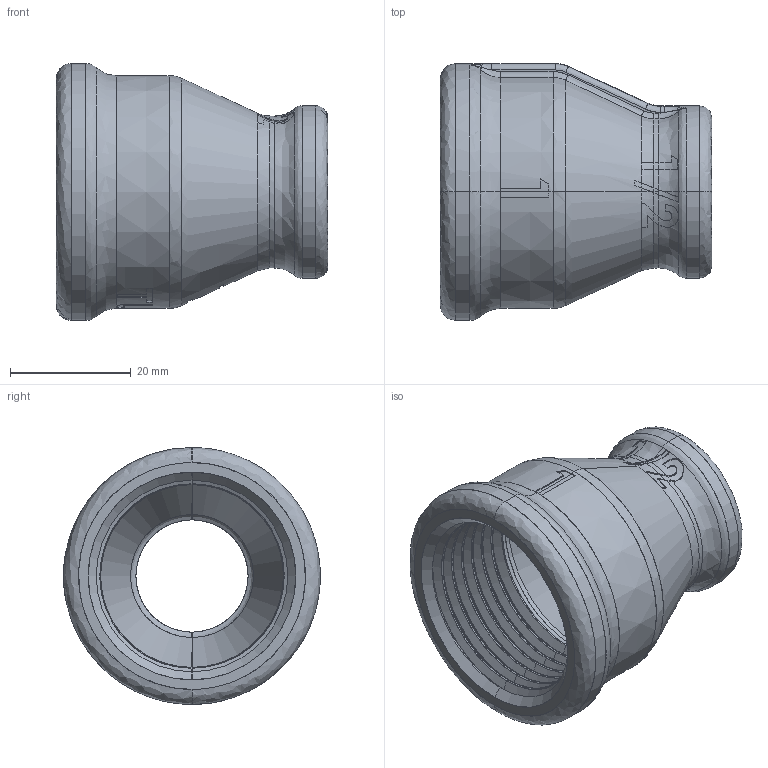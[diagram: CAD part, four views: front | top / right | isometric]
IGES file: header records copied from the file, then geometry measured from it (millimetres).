
Start section: SolidWorks IGES file using analytic representation for surfaces
Global section: file name: C:\Users\Joel Rosa\Desktop\Tubulação\12-32-OK\12-32-032.IGS; native system: SolidWorks 2011; preprocessor: SolidWorks 2011; author: Joel Rosa; date: 121209.021703; units: millimetre
Bounding box: 45 x 42.6 x 42.6 mm (x, y, z)
Surface area: 11529.3 mm2 (no closed solid volume)
Topology: 0 solids, 0 shells, 381 faces, 3104 edges, 3101 vertices
Faces by surface type: bspline 263, revolution 118
